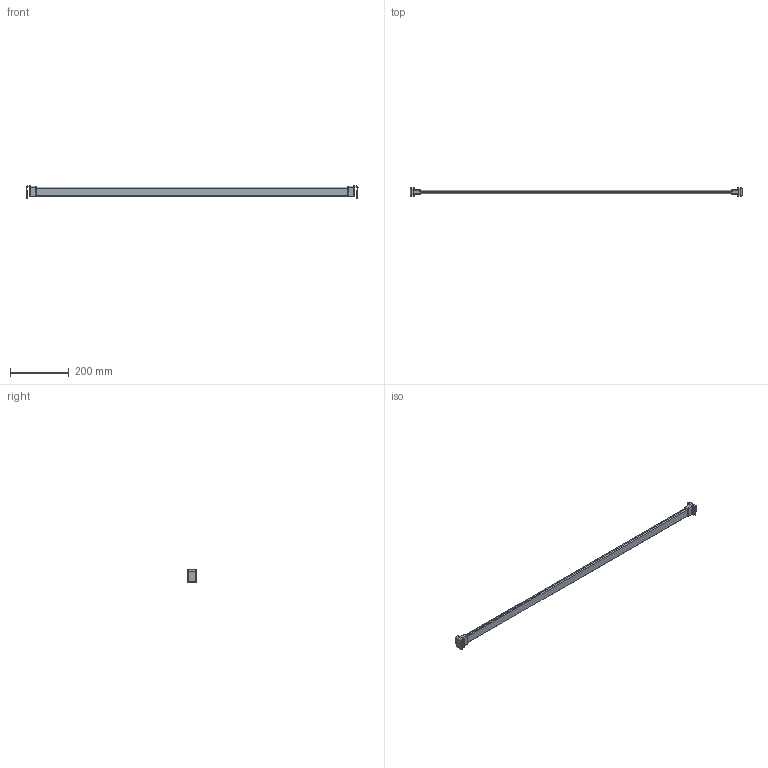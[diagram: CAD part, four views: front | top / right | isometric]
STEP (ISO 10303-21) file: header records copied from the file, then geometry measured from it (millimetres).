
FILE_DESCRIPTION (( 'STEP AP214' ), '1' );
FILE_NAME ('_Querreling_KAB-1200_KS-19_P602_Glashalter.step', '2010-08-26T14:58:58', ( 'grass' ), ( '' ), 'SwSTEP 2.0', 'SolidWorks 2009', '' );
FILE_SCHEMA (( 'AUTOMOTIVE_DESIGN' ));
Length unit declared in the file: millimetre
Products named in the file (1): _Querreling_KAB-1200_KS-19_P602_Glashalter
Bounding box: 1134.78 x 30 x 41.5 mm (x, y, z)
Volume: 365656 mm3; surface area: 96553.7 mm2
Topology: 1 solids, 1 shells, 124 faces, 300 edges, 176 vertices
Faces by surface type: cylinder 58, plane 34, torus 16, bspline 12, sphere 4
Entity records: 5090 total; most frequent: CARTESIAN_POINT 2269, ORIENTED_EDGE 592, DIRECTION 590, EDGE_CURVE 296, AXIS2_PLACEMENT_3D 225, VERTEX_POINT 176, LINE 140, VECTOR 140
